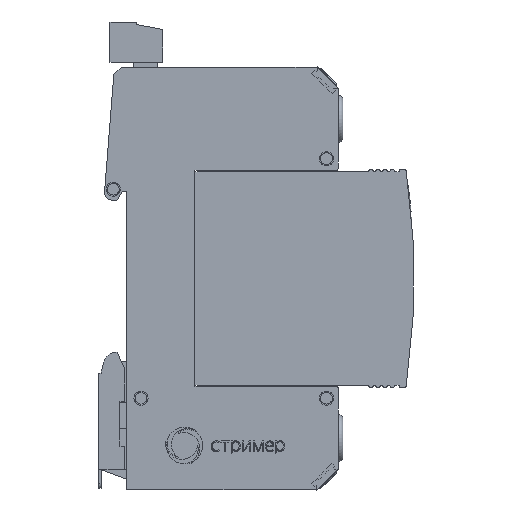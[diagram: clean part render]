
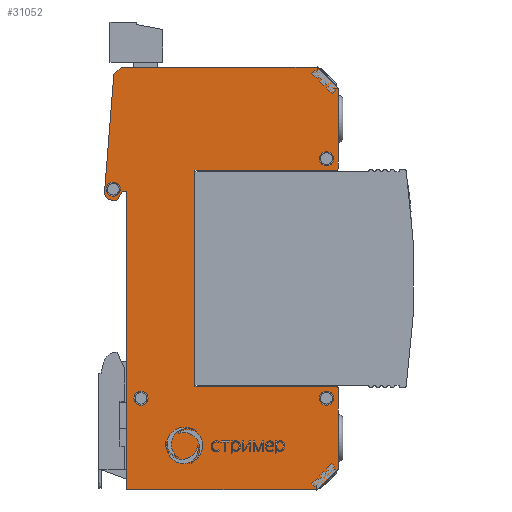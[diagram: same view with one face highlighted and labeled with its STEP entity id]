
A CAD part, front view. The second image highlights one B-rep face of the part: STEP entity #31052.
In plain terms, the highlighted planar face has unit normal (0, -1, 0).
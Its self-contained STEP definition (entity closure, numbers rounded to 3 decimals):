
#29252=CARTESIAN_POINT('',(-14.5,-9.,-45.));
#29253=VERTEX_POINT('',#29252);
#29254=CARTESIAN_POINT('',(26.,-9.,-45.));
#29255=VERTEX_POINT('',#29254);
#29256=CARTESIAN_POINT('',(-14.5,-9.,-45.));
#29257=DIRECTION('',(1.,0.,-0.));
#29258=VECTOR('',#29257,40.5);
#29259=LINE('',#29256,#29258);
#29260=EDGE_CURVE('',#29253,#29255,#29259,.T.);
#29922=CARTESIAN_POINT('',(-14.5,-9.,18.5));
#29923=VERTEX_POINT('',#29922);
#29924=CARTESIAN_POINT('',(-14.5,-9.,18.5));
#29925=DIRECTION('',(0.,0.,-1.));
#29926=VECTOR('',#29925,63.5);
#29927=LINE('',#29924,#29926);
#29928=EDGE_CURVE('',#29923,#29253,#29927,.T.);
#30123=CARTESIAN_POINT('',(-15.5,-9.,45.));
#30124=VERTEX_POINT('',#30123);
#30125=CARTESIAN_POINT('',(-17.29,-9.,43.498));
#30126=VERTEX_POINT('',#30125);
#30127=CARTESIAN_POINT('',(-15.5,-9.,45.));
#30128=DIRECTION('',(-0.766,0.,-0.643));
#30129=VECTOR('',#30128,2.337);
#30130=LINE('',#30127,#30129);
#30131=EDGE_CURVE('',#30124,#30126,#30130,.T.);
#30163=CARTESIAN_POINT('',(-19.273,-9.,18.306));
#30164=VERTEX_POINT('',#30163);
#30165=CARTESIAN_POINT('',(-17.29,-9.,43.498));
#30166=DIRECTION('',(-0.078,0.,-0.997));
#30167=VECTOR('',#30166,25.27);
#30168=LINE('',#30165,#30167);
#30169=EDGE_CURVE('',#30126,#30164,#30168,.T.);
#30194=CARTESIAN_POINT('',(-17.999,-9.,16.704));
#30195=VERTEX_POINT('',#30194);
#30196=CARTESIAN_POINT('',(-17.777,-9.,18.188));
#30197=DIRECTION('',(0.,-1.,0.));
#30198=DIRECTION('',(0.,0.,1.));
#30199=AXIS2_PLACEMENT_3D('',#30196,#30197,#30198);
#30200=CIRCLE('',#30199,1.5);
#30201=EDGE_CURVE('',#30164,#30195,#30200,.T.);
#30227=CARTESIAN_POINT('',(-16.632,-9.,16.5));
#30228=VERTEX_POINT('',#30227);
#30229=CARTESIAN_POINT('',(-17.999,-9.,16.704));
#30230=DIRECTION('',(0.989,0.,-0.148));
#30231=VECTOR('',#30230,1.383);
#30232=LINE('',#30229,#30231);
#30233=EDGE_CURVE('',#30195,#30228,#30232,.T.);
#30258=CARTESIAN_POINT('',(-15.5,-9.,18.5));
#30259=VERTEX_POINT('',#30258);
#30260=CARTESIAN_POINT('',(-16.632,-9.,16.5));
#30261=DIRECTION('',(0.492,0.,0.87));
#30262=VECTOR('',#30261,2.298);
#30263=LINE('',#30260,#30262);
#30264=EDGE_CURVE('',#30228,#30259,#30263,.T.);
#30289=CARTESIAN_POINT('',(-15.5,-9.,18.5));
#30290=DIRECTION('',(1.,0.,0.));
#30291=VECTOR('',#30290,1.);
#30292=LINE('',#30289,#30291);
#30293=EDGE_CURVE('',#30259,#29923,#30292,.T.);
#30311=CARTESIAN_POINT('',(30.5,-9.,-40.5));
#30312=VERTEX_POINT('',#30311);
#30313=CARTESIAN_POINT('',(26.,-9.,-45.));
#30314=DIRECTION('',(0.707,0.,0.707));
#30315=VECTOR('',#30314,6.364);
#30316=LINE('',#30313,#30315);
#30317=EDGE_CURVE('',#29255,#30312,#30316,.T.);
#30362=CARTESIAN_POINT('',(30.5,-9.,-23.5));
#30363=VERTEX_POINT('',#30362);
#30364=CARTESIAN_POINT('',(30.5,-9.,-40.5));
#30365=DIRECTION('',(0.,0.,1.));
#30366=VECTOR('',#30365,17.);
#30367=LINE('',#30364,#30366);
#30368=EDGE_CURVE('',#30312,#30363,#30367,.T.);
#30393=CARTESIAN_POINT('',(30.,-9.,-23.));
#30394=VERTEX_POINT('',#30393);
#30395=CARTESIAN_POINT('',(30.,-9.,-23.5));
#30396=DIRECTION('',(0.,-1.,0.));
#30397=DIRECTION('',(0.,0.,1.));
#30398=AXIS2_PLACEMENT_3D('',#30395,#30396,#30397);
#30399=CIRCLE('',#30398,0.5);
#30400=EDGE_CURVE('',#30363,#30394,#30399,.T.);
#30426=CARTESIAN_POINT('',(0.,-9.,-23.));
#30427=VERTEX_POINT('',#30426);
#30428=CARTESIAN_POINT('',(30.,-9.,-23.));
#30429=DIRECTION('',(-1.,0.,0.));
#30430=VECTOR('',#30429,30.);
#30431=LINE('',#30428,#30430);
#30432=EDGE_CURVE('',#30394,#30427,#30431,.T.);
#30457=CARTESIAN_POINT('',(0.,-9.,23.));
#30458=VERTEX_POINT('',#30457);
#30459=CARTESIAN_POINT('',(0.,-9.,-23.));
#30460=DIRECTION('',(0.,0.,1.));
#30461=VECTOR('',#30460,46.);
#30462=LINE('',#30459,#30461);
#30463=EDGE_CURVE('',#30427,#30458,#30462,.T.);
#30488=CARTESIAN_POINT('',(30.,-9.,23.));
#30489=VERTEX_POINT('',#30488);
#30490=CARTESIAN_POINT('',(0.,-9.,23.));
#30491=DIRECTION('',(1.,0.,0.));
#30492=VECTOR('',#30491,30.);
#30493=LINE('',#30490,#30492);
#30494=EDGE_CURVE('',#30458,#30489,#30493,.T.);
#30519=CARTESIAN_POINT('',(30.5,-9.,23.5));
#30520=VERTEX_POINT('',#30519);
#30521=CARTESIAN_POINT('',(30.,-9.,23.5));
#30522=DIRECTION('',(0.,-1.,0.));
#30523=DIRECTION('',(0.,0.,1.));
#30524=AXIS2_PLACEMENT_3D('',#30521,#30522,#30523);
#30525=CIRCLE('',#30524,0.5);
#30526=EDGE_CURVE('',#30489,#30520,#30525,.T.);
#30572=CARTESIAN_POINT('',(30.5,-9.,40.5));
#30573=VERTEX_POINT('',#30572);
#30574=CARTESIAN_POINT('',(30.5,-9.,23.5));
#30575=DIRECTION('',(0.,0.,1.));
#30576=VECTOR('',#30575,17.);
#30577=LINE('',#30574,#30576);
#30578=EDGE_CURVE('',#30520,#30573,#30577,.T.);
#30603=CARTESIAN_POINT('',(26.,-9.,45.));
#30604=VERTEX_POINT('',#30603);
#30605=CARTESIAN_POINT('',(30.5,-9.,40.5));
#30606=DIRECTION('',(-0.707,0.,0.707));
#30607=VECTOR('',#30606,6.364);
#30608=LINE('',#30605,#30607);
#30609=EDGE_CURVE('',#30573,#30604,#30608,.T.);
#30634=CARTESIAN_POINT('',(-17.38,-9.,17.5));
#30635=VERTEX_POINT('',#30634);
#30644=CARTESIAN_POINT('',(-18.88,-9.,19.));
#30645=VERTEX_POINT('',#30644);
#30646=CARTESIAN_POINT('',(-17.38,-9.,19.));
#30647=DIRECTION('',(0.,-1.,0.));
#30648=DIRECTION('',(-1.,0.,0.));
#30649=AXIS2_PLACEMENT_3D('',#30646,#30647,#30648);
#30650=CIRCLE('',#30649,1.5);
#30651=EDGE_CURVE('',#30635,#30645,#30650,.T.);
#30676=CARTESIAN_POINT('',(28.,-9.,24.));
#30677=VERTEX_POINT('',#30676);
#30686=CARTESIAN_POINT('',(26.5,-9.,25.5));
#30687=VERTEX_POINT('',#30686);
#30688=CARTESIAN_POINT('',(28.,-9.,25.5));
#30689=DIRECTION('',(0.,-1.,0.));
#30690=DIRECTION('',(-1.,0.,0.));
#30691=AXIS2_PLACEMENT_3D('',#30688,#30689,#30690);
#30692=CIRCLE('',#30691,1.5);
#30693=EDGE_CURVE('',#30677,#30687,#30692,.T.);
#30718=CARTESIAN_POINT('',(-11.5,-9.,-27.));
#30719=VERTEX_POINT('',#30718);
#30728=CARTESIAN_POINT('',(-13.,-9.,-25.5));
#30729=VERTEX_POINT('',#30728);
#30730=CARTESIAN_POINT('',(-11.5,-9.,-25.5));
#30731=DIRECTION('',(0.,-1.,0.));
#30732=DIRECTION('',(-1.,0.,0.));
#30733=AXIS2_PLACEMENT_3D('',#30730,#30731,#30732);
#30734=CIRCLE('',#30733,1.5);
#30735=EDGE_CURVE('',#30719,#30729,#30734,.T.);
#30760=CARTESIAN_POINT('',(28.,-9.,-27.));
#30761=VERTEX_POINT('',#30760);
#30770=CARTESIAN_POINT('',(26.5,-9.,-25.5));
#30771=VERTEX_POINT('',#30770);
#30772=CARTESIAN_POINT('',(28.,-9.,-25.5));
#30773=DIRECTION('',(0.,-1.,0.));
#30774=DIRECTION('',(-1.,0.,0.));
#30775=AXIS2_PLACEMENT_3D('',#30772,#30773,#30774);
#30776=CIRCLE('',#30775,1.5);
#30777=EDGE_CURVE('',#30761,#30771,#30776,.T.);
#30904=CARTESIAN_POINT('',(26.,-9.,45.));
#30905=DIRECTION('',(-1.,0.,0.));
#30906=VECTOR('',#30905,41.5);
#30907=LINE('',#30904,#30906);
#30908=EDGE_CURVE('',#30604,#30124,#30907,.T.);
#30987=CARTESIAN_POINT('',(0.,-9.,0.));
#30988=DIRECTION('',(0.,-1.,0.));
#30989=DIRECTION('',(0.,0.,1.));
#30990=AXIS2_PLACEMENT_3D('',#30987,#30988,#30989);
#30991=PLANE('',#30990);
#30992=ORIENTED_EDGE('',*,*,#30777,.F.);
#30993=CARTESIAN_POINT('',(28.,-9.,-25.5));
#30994=DIRECTION('',(0.,-1.,0.));
#30995=DIRECTION('',(-1.,0.,0.));
#30996=AXIS2_PLACEMENT_3D('',#30993,#30994,#30995);
#30997=CIRCLE('',#30996,1.5);
#30998=EDGE_CURVE('',#30771,#30761,#30997,.T.);
#30999=ORIENTED_EDGE('',*,*,#30998,.F.);
#31000=EDGE_LOOP('',(#30992,#30999));
#31001=FACE_BOUND('',#31000,.T.);
#31002=ORIENTED_EDGE('',*,*,#30735,.F.);
#31003=CARTESIAN_POINT('',(-11.5,-9.,-25.5));
#31004=DIRECTION('',(0.,-1.,0.));
#31005=DIRECTION('',(-1.,0.,0.));
#31006=AXIS2_PLACEMENT_3D('',#31003,#31004,#31005);
#31007=CIRCLE('',#31006,1.5);
#31008=EDGE_CURVE('',#30729,#30719,#31007,.T.);
#31009=ORIENTED_EDGE('',*,*,#31008,.F.);
#31010=EDGE_LOOP('',(#31002,#31009));
#31011=FACE_BOUND('',#31010,.T.);
#31012=ORIENTED_EDGE('',*,*,#30693,.F.);
#31013=CARTESIAN_POINT('',(28.,-9.,25.5));
#31014=DIRECTION('',(0.,-1.,0.));
#31015=DIRECTION('',(-1.,0.,0.));
#31016=AXIS2_PLACEMENT_3D('',#31013,#31014,#31015);
#31017=CIRCLE('',#31016,1.5);
#31018=EDGE_CURVE('',#30687,#30677,#31017,.T.);
#31019=ORIENTED_EDGE('',*,*,#31018,.F.);
#31020=EDGE_LOOP('',(#31012,#31019));
#31021=FACE_BOUND('',#31020,.T.);
#31022=ORIENTED_EDGE('',*,*,#30651,.F.);
#31023=CARTESIAN_POINT('',(-17.38,-9.,19.));
#31024=DIRECTION('',(0.,-1.,0.));
#31025=DIRECTION('',(-1.,0.,0.));
#31026=AXIS2_PLACEMENT_3D('',#31023,#31024,#31025);
#31027=CIRCLE('',#31026,1.5);
#31028=EDGE_CURVE('',#30645,#30635,#31027,.T.);
#31029=ORIENTED_EDGE('',*,*,#31028,.F.);
#31030=EDGE_LOOP('',(#31022,#31029));
#31031=FACE_BOUND('',#31030,.T.);
#31032=ORIENTED_EDGE('',*,*,#30131,.T.);
#31033=ORIENTED_EDGE('',*,*,#30169,.T.);
#31034=ORIENTED_EDGE('',*,*,#30201,.T.);
#31035=ORIENTED_EDGE('',*,*,#30233,.T.);
#31036=ORIENTED_EDGE('',*,*,#30264,.T.);
#31037=ORIENTED_EDGE('',*,*,#30293,.T.);
#31038=ORIENTED_EDGE('',*,*,#29928,.T.);
#31039=ORIENTED_EDGE('',*,*,#29260,.T.);
#31040=ORIENTED_EDGE('',*,*,#30317,.T.);
#31041=ORIENTED_EDGE('',*,*,#30368,.T.);
#31042=ORIENTED_EDGE('',*,*,#30400,.T.);
#31043=ORIENTED_EDGE('',*,*,#30432,.T.);
#31044=ORIENTED_EDGE('',*,*,#30463,.T.);
#31045=ORIENTED_EDGE('',*,*,#30494,.T.);
#31046=ORIENTED_EDGE('',*,*,#30526,.T.);
#31047=ORIENTED_EDGE('',*,*,#30578,.T.);
#31048=ORIENTED_EDGE('',*,*,#30609,.T.);
#31049=ORIENTED_EDGE('',*,*,#30908,.T.);
#31050=EDGE_LOOP('',(#31032,#31033,#31034,#31035,#31036,#31037,#31038,#31039,#31040,#31041,#31042,#31043,#31044,#31045,#31046,#31047,#31048,#31049));
#31051=FACE_BOUND('',#31050,.T.);
#31052=ADVANCED_FACE('',(#31001,#31011,#31021,#31031,#31051),#30991,.T.);
